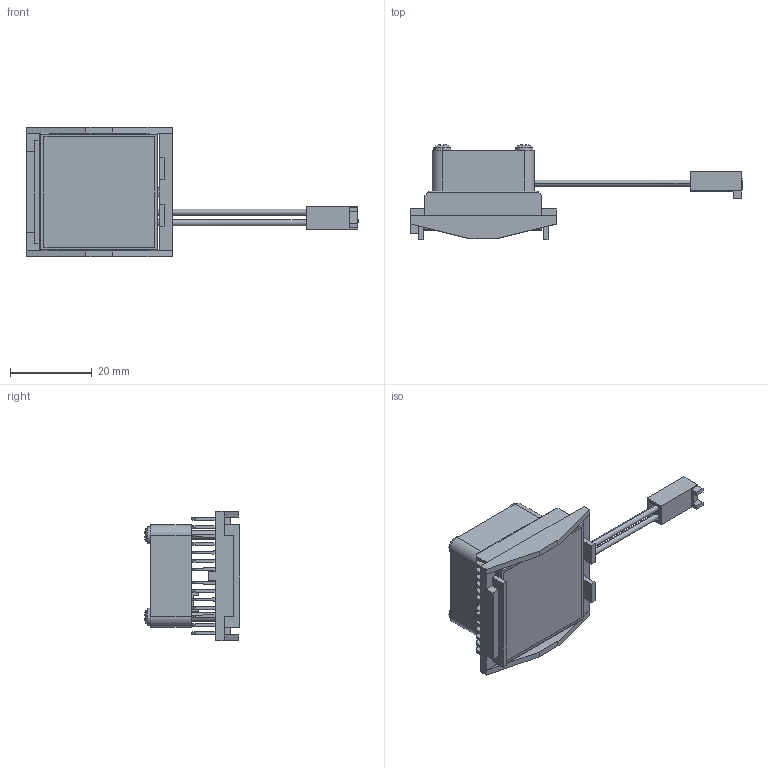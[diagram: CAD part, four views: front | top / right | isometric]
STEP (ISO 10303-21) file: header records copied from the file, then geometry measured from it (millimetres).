
FILE_DESCRIPTION (( 'STEP AP214' ), '1' );
FILE_NAME ('FJ29-1.7+Y.STEP', '2023-03-22T00:36:04', ( '' ), ( '' ), 'SwSTEP 2.0', 'SolidWorks 2020', '' );
FILE_SCHEMA (( 'AUTOMOTIVE_DESIGN' ));
Length unit declared in the file: millimetre
Products named in the file (1): FJ29-1.7+Y
Bounding box: 81.2 x 23.28 x 31.7 mm (x, y, z)
Volume: 8681.8 mm3; surface area: 16582.2 mm2
Topology: 8 solids, 8 shells, 391 faces, 1094 edges, 724 vertices
Faces by surface type: plane 291, cylinder 82, bspline 14, sphere 4
Entity records: 17207 total; most frequent: CARTESIAN_POINT 2760, ORIENTED_EDGE 2172, DIRECTION 1973, EDGE_CURVE 1086, LINE 789, VECTOR 789, VERTEX_POINT 720, AXIS2_PLACEMENT_3D 592
